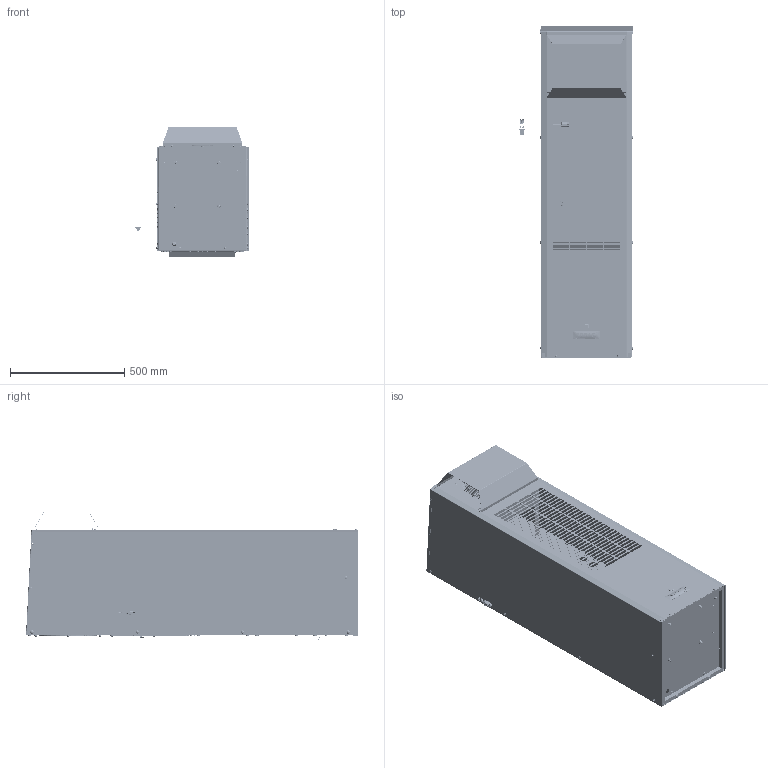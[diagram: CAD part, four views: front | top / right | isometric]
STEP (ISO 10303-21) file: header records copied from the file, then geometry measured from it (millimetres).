
FILE_DESCRIPTION (( 'STEP AP214' ), '1' );
FILE_NAME ('DTS 3661 (Outdoor).STEP', '2026-10-07T17:54:27', ( '' ), ( '' ), 'SwSTEP 2.0', 'SolidWorks 2024', '' );
FILE_SCHEMA (( 'AUTOMOTIVE_DESIGN' ));
Length unit declared in the file: millimetre
Products named in the file (83): 020200025_020200025; 885000190(191)_1DS; 020140002_020140002; 025710112_025710112; 80076-102_Cover Assy DTS 36x1C LTGY - Outdoor; 825500005_825500005; 085110010_085110010; 020200207_020200207; 80076-011_80076-011; 80076-024; 830303005_825407013; 020100896_020100896; 80076-015_PN; 80076-072_Compressed; 820140008_820140008; 811000033_PN; 80076-028_PN; Rivet M4 (variety)_820140010; 089000050_089000050; 050037070_050037070; 015074025_662mm; 885000214_How To Install_PN; HOUSING^80076-101_ALL; 020140042_020140042; 885000038_885000038; 820100000_820100000; 825416016_825416016; 020200600_Harness1; 885000214_Extend Your Warranty_885000214_Extend Your Warranty; 020200075_020200075; 80076-019_LtGy - RAL 7035; Rivet M4 (variety)_020140018; 885000190(191)_BK1; 020140008_020140008; 020200020_020200020; 015074029^80076-101_DTS 34-36; DTS 3661 (Outdoor); 820200023_820200023; 80076-012_80076-012; 020500682_020500682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
Assembly tree (307 placements, depth 4):
  DTS 3661 (Outdoor)
    80076-101_No Interior for Step file
      80076-012_80076-012
      020140042_020140042
      020500682_020500682  x4
      020200600_Harness1  x4
      Rivet M4 (variety)_020140045  x31
      820500006_820500006
      820140007_Per Spec  x8
      HOUSING^80076-101_ALL
        820140007_Per Spec  x23
        020140002_020140002  x14
        80076-011_80076-011
        020500682_020500682  x2
        Rivet M4 (variety)_020140045  x27
        020200600_Harness1  x2
        025500743_025500743  x2
        020103030_020103030  x2
      BASE^80076-101_36 ~ R513A ~ 460V
        80076-010_80076-010
        020140042_020140042  x4
        820140007_Per Spec  x4
        820140008_820140008  x2
        000801289_000801289
        825500006_825500006  x2
        825500005_825500005
        825416016_825416016
        825416017_825416017
        025500757_025500757  x2
        025500758_025500758  x2
        820100000_820100000  x2
        020200207_020200207  x4
        020200075_020200075  x4
        820100021_820100021  x4
        812000142_PN
      020140008_020140008  x2
      825500010_825500010
      825500012_825500012
      025500757_025500757  x6
      020100896_020100896  x14
      020200025_020200025  x12
      80076-024
      011250701_011250701
      80076-016_80076-016
      80076-017_PN
      80076-021_PN
      020220100_020220100  x2
      80076-028_PN
      Rivet M4 (variety)_020140018  x8
      80076-029_PN
      80076-071_80076-071
      015074029^80076-101_DTS 34-36
      80076-030_PN
      025500743_025500743
      085110010_085110010  x4
      020103030_020103030
      820200023_820200023  x4
      820100030_820100030  x4
      80076-072_Compressed
      80076-072_80076-072
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Bounding box: 500.31 x 1454.4 x 571.11 mm (x, y, z)
Volume: 10042298.7 mm3; surface area: 11262648 mm2
Topology: 371 solids, 375 shells, 26763 faces, 67807 edges, 42819 vertices
Faces by surface type: plane 10736, cylinder 6728, bspline 4296, cone 3405, torus 1491, sphere 107
Entity records: 666569 total; most frequent: CARTESIAN_POINT 304256, ORIENTED_EDGE 79546, DIRECTION 64420, EDGE_CURVE 39773, VERTEX_POINT 25706, VECTOR 24254, LINE 24254, AXIS2_PLACEMENT_3D 20083
